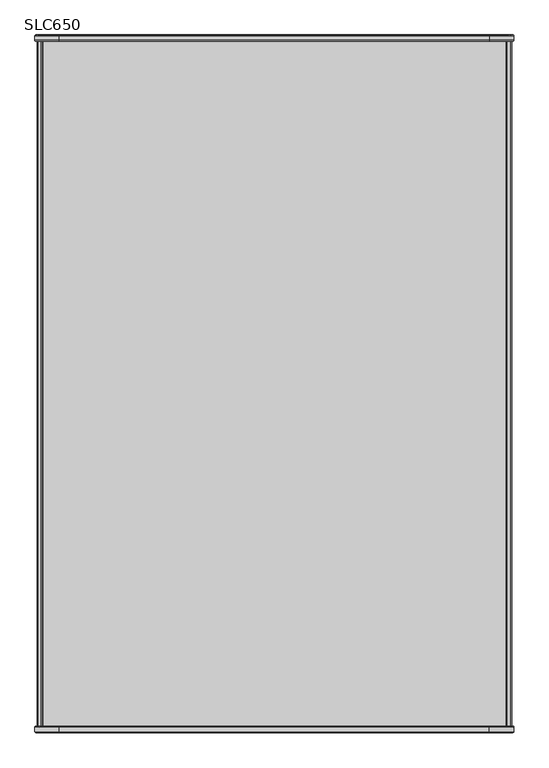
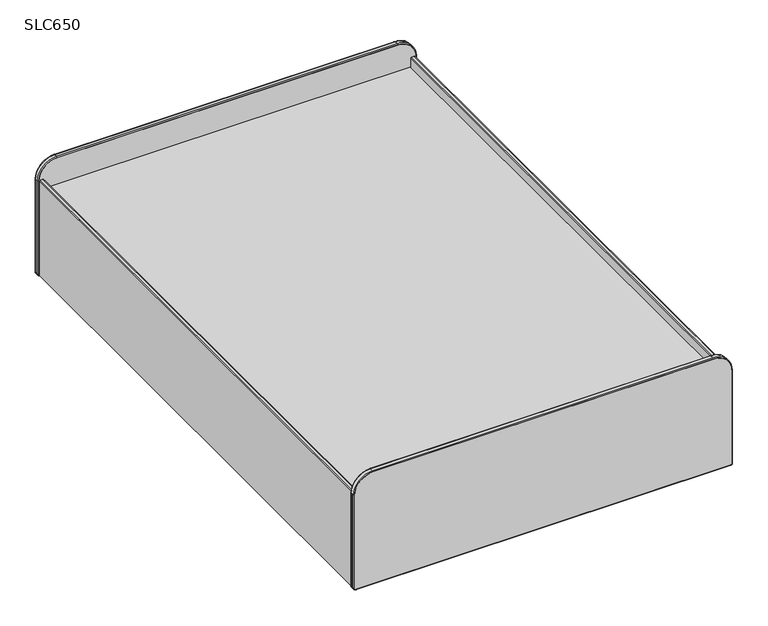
"""IFC4 building model written with IfcOpenShell, lengths in millimetres: furniture geometry, Stance_HC-Lotus-Platform_Bed-Rounded_Corners : SLC650."""

from ifc_helpers import new_model, si_unit, point, frame, frame_2d, origin, place, context, project, spatial, polyline, circle_curve, ellipse_curve, trimmed, segment, composite_curve, outline, extrude, source, transform, mapped, element, save
from ifc_brep_helpers import plane_surface, cylinder_surface, revolved_surface, advanced_brep


def slc650_620ad227(model_context):
    return source(origin(), model_context, "Body", "SolidModel", [
        extrude(outline(polyline([(1404.1437258, -2063.75), (24.6062492, -2063.75), (24.6062492, -19.05), (1404.1437258, -19.05), (1404.1437258, -2063.75)])), frame((0.0, 0.0, 323.85), z_axis=(0.0, 0.0, 1.0), x_axis=(1.0, 0.0, 0.0)), (0.0, 0.0, 1.0), 19.05),
        extrude(outline(composite_curve([segment(polyline([(0.0, 22.2249992), (377.825, 22.2249992)]), True, "CONTINUOUS"), segment(trimmed(circle_curve(frame_2d((377.825, 19.0499992)), 3.175), [point((377.825, 22.2249992))], [point((381.0, 19.0499992))], False, "CARTESIAN"), True, "CONTINUOUS"), segment(polyline([(381.0, 19.0499992), (381.0, 9.5250002)]), True, "CONTINUOUS"), segment(trimmed(circle_curve(frame_2d((377.825, 9.5250002)), 3.175), [point((381.0, 9.5250002))], [point((377.825, 6.3500002))], False, "CARTESIAN"), True, "CONTINUOUS"), segment(polyline([(377.825, 6.3500002), (0.0, 6.3500002), (0.0, 22.2249992)]), True, "CONTINUOUS")], self_intersect=False)), frame((0.0, -2063.75, 0.0), z_axis=(0.0, 1.0, 0.0), x_axis=(0.0, 0.0, 1.0)), (0.0, 0.0, 1.0), 2044.7),
        extrude(outline(composite_curve([segment(polyline([(0.0, 1406.5250008), (0.0, 1422.3999998), (377.825, 1422.3999998)]), True, "CONTINUOUS"), segment(trimmed(circle_curve(frame_2d((377.825, 1419.2249998)), 3.175), [point((377.825, 1422.3999998))], [point((381.0, 1419.2249998))], False, "CARTESIAN"), True, "CONTINUOUS"), segment(polyline([(381.0, 1419.2249998), (381.0, 1409.7000008)]), True, "CONTINUOUS"), segment(trimmed(circle_curve(frame_2d((377.825, 1409.7000008)), 3.175), [point((381.0, 1409.7000008))], [point((377.825, 1406.5250008))], False, "CARTESIAN"), True, "CONTINUOUS"), segment(polyline([(377.825, 1406.5250008), (0.0, 1406.5250008)]), True, "CONTINUOUS")], self_intersect=False)), frame((0.0, -2063.75, 0.0), z_axis=(0.0, 1.0, 0.0), x_axis=(0.0, 0.0, 1.0)), (0.0, 0.0, 1.0), 2044.7),
        extrude(outline(composite_curve([segment(trimmed(circle_curve(frame_2d((6.35, 1422.4)), 3.1749999), [point((3.1750001, 1422.4))], [point((6.35, 1425.5749999))], False, "CARTESIAN"), True, "CONTINUOUS"), segment(polyline([(6.35, 1425.5749999), (377.8249879, 1425.5749999)]), True, "CONTINUOUS"), segment(trimmed(circle_curve(frame_2d((377.8249879, 1355.725)), 69.8499999), [point((377.8249879, 1425.5749999))], [point((447.6749878, 1355.725))], False, "CARTESIAN"), True, "CONTINUOUS"), segment(polyline([(447.6749878, 1355.725), (447.6749878, 73.0249985)]), True, "CONTINUOUS"), segment(trimmed(circle_curve(frame_2d((377.8249894, 73.0249985)), 69.8499984), [point((447.6749878, 73.0249985))], [point((377.8249894, 3.1750001))], False, "CARTESIAN"), True, "CONTINUOUS"), segment(polyline([(377.8249894, 3.1750001), (6.35, 3.1750001)]), True, "CONTINUOUS"), segment(trimmed(circle_curve(frame_2d((6.35, 6.35)), 3.1749999), [point((6.35, 3.1750001))], [point((3.1750001, 6.35))], False, "CARTESIAN"), True, "CONTINUOUS"), segment(polyline([(3.1750001, 6.35), (3.1750001, 1422.4)]), True, "CONTINUOUS")], self_intersect=False)), frame((0.0, -2082.8, 0.0), z_axis=(0.0, 1.0, 0.0), x_axis=(0.0, 0.0, 1.0)), (0.0, 0.0, 1.0), 19.05),
        extrude(outline(composite_curve([segment(polyline([(3.1750001, 6.35), (3.1750001, 1422.4)]), True, "CONTINUOUS"), segment(trimmed(circle_curve(frame_2d((6.35, 1422.4)), 3.1749999), [point((3.1750001, 1422.4))], [point((6.35, 1425.5749999))], False, "CARTESIAN"), True, "CONTINUOUS"), segment(polyline([(6.35, 1425.5749999), (377.8249879, 1425.5749999)]), True, "CONTINUOUS"), segment(trimmed(circle_curve(frame_2d((377.8249879, 1355.725)), 69.8499999), [point((377.8249879, 1425.5749999))], [point((447.6749878, 1355.725))], False, "CARTESIAN"), True, "CONTINUOUS"), segment(polyline([(447.6749878, 1355.725), (447.6749878, 73.025)]), True, "CONTINUOUS"), segment(trimmed(circle_curve(frame_2d((377.8249879, 73.025)), 69.8499999), [point((447.6749878, 73.025))], [point((377.8249879, 3.1750001))], False, "CARTESIAN"), True, "CONTINUOUS"), segment(polyline([(377.8249879, 3.1750001), (6.35, 3.1750001)]), True, "CONTINUOUS"), segment(trimmed(circle_curve(frame_2d((6.35, 6.35)), 3.1749999), [point((6.35, 3.1750001))], [point((3.1750001, 6.35))], False, "CARTESIAN"), True, "CONTINUOUS")], self_intersect=False)), frame((0.0, -19.05, 0.0), z_axis=(0.0, 1.0, 0.0), x_axis=(0.0, 0.0, 1.0)), (0.0, 0.0, 1.0), 19.05),
        advanced_brep(
        [(1428.75, -2066.9250001, 6.35), (1422.4, -2066.9250001, 0.0), (1422.4, -2063.75, 3.1750001), (1425.5749999, -2063.75, 6.35), (1422.4, -2082.8, 3.1750001), (1425.5749999, -2082.8, 6.35), (1422.4, -2079.6249999, 0.0), (1428.75, -2079.6249999, 6.35), (1425.5749999, -2063.75, 377.8249879), (1428.75, -2066.9250001, 377.8249879), (1425.5749999, -2082.8, 377.8249879), (1428.75, -2079.6249999, 377.8249879), (0.0, -2066.9250001, 377.8249894), (3.1750001, -2063.75, 377.8249894), (3.1750001, -2063.75, 6.35), (0.0, -2066.9250001, 6.35), (3.1750001, -2082.8, 377.8249894), (3.1750001, -2082.8, 6.35), (0.0, -2079.6249999, 377.8249894), (0.0, -2079.6249999, 6.35), (6.35, -2066.9250001, 0.0), (6.35, -2063.75, 3.1750001), (6.35, -2082.8, 3.1750001), (6.35, -2079.6249999, 0.0), (1355.725, -2079.6249999, 450.8499879), (1355.725, -2066.9250001, 450.8499879), (1355.725, -2082.8, 447.6749878), (1355.725, -2063.75, 447.6749878), (73.0249985, -2066.9250001, 450.8499879), (73.0249985, -2079.6249999, 450.8499879), (73.0249985, -2082.8, 447.6749878), (73.0249985, -2063.75, 447.6749878)],
        [
            (0, 1, circle_curve(frame((1422.4, -2066.9250001, 6.35), z_axis=(0.0, 1.0, 0.0), x_axis=(0.0, 0.0, -1.0)), 6.35)),
            (1, 2, circle_curve(frame((1422.4, -2066.9250001, 3.1750001), z_axis=(1.0, 0.0, 0.0), x_axis=(0.0, 0.0, -1.0)), 3.1750001)),
            (2, 3, circle_curve(frame((1422.4, -2063.75, 6.35), z_axis=(0.0, -1.0, 0.0), x_axis=(0.0, 0.0, -1.0)), 3.1749999)),
            (3, 0, circle_curve(frame((1425.5749999, -2066.9250001, 6.35), z_axis=(0.0, 0.0, -1.0), x_axis=(1.0, 0.0, 0.0)), 3.1750001)),
            (2, 4),
            (4, 5, circle_curve(frame((1422.4, -2082.8, 6.35), z_axis=(0.0, -1.0, 0.0), x_axis=(0.0, 0.0, -1.0)), 3.1749999)),
            (5, 3),
            (4, 6, circle_curve(frame((1422.4, -2079.6249999, 3.1750001), z_axis=(1.0, 0.0, 0.0), x_axis=(0.0, 0.0, -1.0)), 3.1750001)),
            (6, 7, circle_curve(frame((1422.4, -2079.6249999, 6.35), z_axis=(0.0, -1.0, 0.0), x_axis=(0.0, 0.0, -1.0)), 6.35)),
            (7, 5, circle_curve(frame((1425.5749999, -2079.6249999, 6.35), z_axis=(0.0, 0.0, -1.0), x_axis=(1.0, 0.0, 0.0)), 3.1750001)),
            (6, 1),
            (0, 7),
            (3, 8),
            (8, 9, circle_curve(frame((1425.5749999, -2066.9250001, 377.8249879), z_axis=(0.0, 0.0, -1.0), x_axis=(1.0, 0.0, 0.0)), 3.1750001)),
            (9, 0),
            (5, 10),
            (10, 8),
            (7, 11),
            (11, 10, circle_curve(frame((1425.5749999, -2079.6249999, 377.8249879), z_axis=(0.0, 0.0, -1.0), x_axis=(1.0, 0.0, 0.0)), 3.1750001)),
            (9, 11),
            (12, 13, circle_curve(frame((3.1750001, -2066.9250001, 377.8249894), z_axis=(0.0, 0.0, -1.0), x_axis=(-1.0, 0.0, 0.0)), 3.1750001)),
            (13, 14),
            (14, 15, circle_curve(frame((3.1750001, -2066.9250001, 6.35), z_axis=(0.0, 0.0, 1.0), x_axis=(-1.0, 0.0, 0.0)), 3.1750001)),
            (15, 12),
            (13, 16),
            (16, 17),
            (17, 14),
            (16, 18, circle_curve(frame((3.1750001, -2079.6249999, 377.8249894), z_axis=(0.0, 0.0, -1.0), x_axis=(-1.0, 0.0, 0.0)), 3.1750001)),
            (18, 19),
            (19, 17, circle_curve(frame((3.1750001, -2079.6249999, 6.35), z_axis=(0.0, 0.0, 1.0), x_axis=(-1.0, 0.0, 0.0)), 3.1750001)),
            (18, 12),
            (15, 19),
            (20, 15, circle_curve(frame((6.35, -2066.9250001, 6.35), z_axis=(0.0, 1.0, 0.0), x_axis=(-1.0, 0.0, 0.0)), 6.35)),
            (14, 21, circle_curve(frame((6.35, -2063.75, 6.35), z_axis=(0.0, -1.0, 0.0), x_axis=(-1.0, 0.0, 0.0)), 3.1749999)),
            (21, 20, circle_curve(frame((6.35, -2066.9250001, 3.1750001), z_axis=(-1.0, 0.0, -2.6133808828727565e-12), x_axis=(2.6133808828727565e-12, 0.0, -1.0)), 3.1750001)),
            (17, 22, circle_curve(frame((6.35, -2082.8, 6.35), z_axis=(0.0, -1.0, 0.0), x_axis=(-1.0, 0.0, 0.0)), 3.1749999)),
            (22, 21),
            (19, 23, circle_curve(frame((6.35, -2079.6249999, 6.35), z_axis=(0.0, -1.0, 0.0), x_axis=(-1.0, 0.0, 0.0)), 6.35)),
            (23, 22, circle_curve(frame((6.35, -2079.6249999, 3.1750001), z_axis=(-1.0, 0.0, -1.3004311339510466e-12), x_axis=(1.3004311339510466e-12, 0.0, -1.0)), 3.1750001)),
            (20, 23),
            (21, 2),
            (1, 20),
            (22, 4),
            (23, 6),
            (24, 11, circle_curve(frame((1355.725, -2079.6249999, 377.8249879), z_axis=(0.0, 1.0, 0.0), x_axis=(1.0, 0.0, 0.0)), 73.025)),
            (9, 25, circle_curve(frame((1355.725, -2066.9250001, 377.8249879), z_axis=(0.0, -1.0, 0.0), x_axis=(1.0, 0.0, 0.0)), 73.025)),
            (25, 24),
            (26, 10, circle_curve(frame((1355.725, -2082.8, 377.8249879), z_axis=(0.0, 1.0, 0.0), x_axis=(1.0, 0.0, 0.0)), 69.8499999)),
            (24, 26, circle_curve(frame((1355.725, -2079.6249999, 447.6749878), z_axis=(1.0, 0.0, 0.0), x_axis=(0.0, 0.0, 1.0)), 3.1750001)),
            (27, 8, circle_curve(frame((1355.725, -2063.75, 377.8249879), z_axis=(0.0, 1.0, 0.0), x_axis=(1.0, 0.0, 0.0)), 69.8499999)),
            (26, 27),
            (27, 25, circle_curve(frame((1355.725, -2066.9250001, 447.6749878), z_axis=(1.0, 0.0, 0.0), x_axis=(0.0, 0.0, 1.0)), 3.1750001)),
            (25, 28),
            (28, 29),
            (29, 24),
            (29, 30, circle_curve(frame((73.0249985, -2079.6249999, 447.6749878), z_axis=(1.0, 0.0, 0.0), x_axis=(0.0, 0.0, 1.0)), 3.1750001)),
            (30, 26),
            (30, 31),
            (31, 27),
            (31, 28, circle_curve(frame((73.0249985, -2066.9250001, 447.6749878), z_axis=(1.0, 0.0, 0.0), x_axis=(0.0, 0.0, 1.0)), 3.1750001)),
            (18, 29, circle_curve(frame((73.0249985, -2079.6249999, 377.8249894), z_axis=(0.0, 1.0, 0.0), x_axis=(0.0, 0.0, 1.0)), 73.0249985)),
            (28, 12, circle_curve(frame((73.0249985, -2066.9250001, 377.8249894), z_axis=(0.0, -1.0, 0.0), x_axis=(0.0, 0.0, 1.0)), 73.0249985)),
            (16, 30, circle_curve(frame((73.0249985, -2082.8, 377.8249894), z_axis=(0.0, 1.0, 0.0), x_axis=(0.0, 0.0, 1.0)), 69.8499984)),
            (13, 31, circle_curve(frame((73.0249985, -2063.75, 377.8249894), z_axis=(0.0, 1.0, 0.0), x_axis=(0.0, 0.0, 1.0)), 69.8499984)),
        ],
        [
            revolved_surface(trimmed(ellipse_curve(frame((1422.4, -2066.9250001, 3.1750001), z_axis=(-1.0, 0.0, 0.0), x_axis=(0.0, 0.0, -1.0)), 3.1750001, 3.1750001), [point((1422.4, -2063.75, 3.1750001))], [point((1422.4, -2066.9250001, 0.0))], True, "CARTESIAN"), (1422.4, -2082.8, 6.35), (0.0, -1.0, 0.0)),
            revolved_surface(polyline([(1422.4, -2082.8, 3.1750000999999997), (1422.4, -2063.75, 3.1750000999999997)]), (1422.4, -2082.8, 6.35), (0.0, -1.0, 0.0)),
            revolved_surface(trimmed(ellipse_curve(frame((1422.4, -2079.6249999, 3.1750001), z_axis=(-1.0, 0.0, 0.0), x_axis=(0.0, 0.0, -1.0)), 3.1750001, 3.1750001), [point((1422.4, -2079.6249999, 0.0))], [point((1422.4, -2082.8, 3.1750001))], True, "CARTESIAN"), (1422.4, -2082.8, 6.35), (0.0, -1.0, 0.0)),
            cylinder_surface(frame((1422.4, -2082.8, 6.35), z_axis=(0.0, -1.0, 0.0), x_axis=(0.0, 0.0, -1.0)), 6.35),
            cylinder_surface(frame((1425.5749999, -2066.9250001, 6.35), z_axis=(0.0, 0.0, -1.0), x_axis=(1.0, 0.0, 0.0)), 3.1750001),
            plane_surface(frame((1425.5749999, -2082.8, 6.35), z_axis=(-1.0, 0.0, 0.0), x_axis=(0.0, 0.0, 1.0))),
            cylinder_surface(frame((1425.5749999, -2079.6249999, 6.35), z_axis=(0.0, 0.0, -1.0), x_axis=(1.0, 0.0, 0.0)), 3.1750001),
            plane_surface(frame((1428.75, -2066.9250001, 6.35), z_axis=(1.0, 0.0, 0.0), x_axis=(0.0, 0.0, 1.0))),
            cylinder_surface(frame((3.1750001, -2066.9250001, 377.8249894), z_axis=(0.0, 0.0, 1.0), x_axis=(-1.0, 0.0, 0.0)), 3.1750001),
            plane_surface(frame((3.1750001, -2082.8, 377.8249894), z_axis=(1.0, 0.0, 0.0), x_axis=(0.0, 0.0, -1.0))),
            cylinder_surface(frame((3.1750001, -2079.6249999, 377.8249894), z_axis=(0.0, 0.0, 1.0), x_axis=(-1.0, 0.0, 0.0)), 3.1750001),
            plane_surface(frame((0.0, -2066.9250001, 377.8249894), z_axis=(-1.0, 0.0, 0.0), x_axis=(0.0, 0.0, -1.0))),
            revolved_surface(trimmed(ellipse_curve(frame((3.1750001, -2066.9250001, 6.35), z_axis=(0.0, 0.0, 1.0), x_axis=(-1.0, 0.0, 0.0)), 3.1750001, 3.1750001), [point((3.1750001, -2063.75, 6.35))], [point((0.0, -2066.9250001, 6.35))], True, "CARTESIAN"), (6.35, -2082.8, 6.35), (0.0, -1.0, 0.0)),
            revolved_surface(polyline([(3.1750000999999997, -2082.8, 6.35), (3.1750000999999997, -2063.75, 6.35)]), (6.35, -2082.8, 6.35), (0.0, -1.0, 0.0)),
            revolved_surface(trimmed(ellipse_curve(frame((3.1750001, -2079.6249999, 6.35), z_axis=(0.0, 0.0, 1.0), x_axis=(-1.0, 0.0, 0.0)), 3.1750001, 3.1750001), [point((0.0, -2079.6249999, 6.35))], [point((3.1750001, -2082.8, 6.35))], True, "CARTESIAN"), (6.35, -2082.8, 6.35), (0.0, -1.0, 0.0)),
            cylinder_surface(frame((6.35, -2082.8, 6.35), z_axis=(0.0, -1.0, 0.0), x_axis=(-1.0, 0.0, 0.0)), 6.35),
            cylinder_surface(frame((6.35, -2066.9250001, 3.1750001), z_axis=(-1.0, 0.0, 0.0), x_axis=(0.0, 0.0, -1.0)), 3.1750001),
            plane_surface(frame((6.35, -2082.8, 3.1750001), z_axis=(0.0, 0.0, 1.0), x_axis=(1.0, 0.0, 0.0))),
            cylinder_surface(frame((6.35, -2079.6249999, 3.1750001), z_axis=(-1.0, 0.0, 0.0), x_axis=(0.0, 0.0, -1.0)), 3.1750001),
            plane_surface(frame((6.35, -2066.9250001, 0.0), z_axis=(0.0, 0.0, -1.0), x_axis=(1.0, 0.0, 0.0))),
            cylinder_surface(frame((1355.725, -2082.8, 377.8249879), z_axis=(0.0, -1.0, 0.0), x_axis=(1.0, 0.0, 0.0)), 73.025),
            revolved_surface(trimmed(ellipse_curve(frame((1425.5749999, -2079.6249999, 377.8249879), z_axis=(0.0, 0.0, -1.0), x_axis=(1.0, 0.0, 0.0)), 3.1750001, 3.1750001), [point((1428.75, -2079.6249999, 377.8249879))], [point((1425.5749999, -2082.8, 377.8249879))], True, "CARTESIAN"), (1355.725, -2082.8, 377.8249879), (0.0, -1.0, 0.0)),
            revolved_surface(polyline([(1425.5749999, -2082.8, 377.8249879), (1425.5749999, -2063.75, 377.8249879)]), (1355.725, -2082.8, 377.8249879), (0.0, -1.0, 0.0)),
            revolved_surface(trimmed(ellipse_curve(frame((1425.5749999, -2066.9250001, 377.8249879), z_axis=(0.0, 0.0, -1.0), x_axis=(1.0, 0.0, 0.0)), 3.1750001, 3.1750001), [point((1425.5749999, -2063.75, 377.8249879))], [point((1428.75, -2066.9250001, 377.8249879))], True, "CARTESIAN"), (1355.725, -2082.8, 377.8249879), (0.0, -1.0, 0.0)),
            plane_surface(frame((1355.725, -2066.9250001, 450.8499879), z_axis=(0.0, 0.0, 1.0), x_axis=(-1.0, 0.0, 0.0))),
            cylinder_surface(frame((1355.725, -2079.6249999, 447.6749878), z_axis=(1.0, 0.0, 0.0), x_axis=(0.0, 0.0, 1.0)), 3.1750001),
            plane_surface(frame((1355.725, -2082.8, 447.6749878), z_axis=(0.0, 0.0, -1.0), x_axis=(-1.0, 0.0, 0.0))),
            cylinder_surface(frame((1355.725, -2066.9250001, 447.6749878), z_axis=(1.0, 0.0, 0.0), x_axis=(0.0, 0.0, 1.0)), 3.1750001),
            cylinder_surface(frame((73.0249985, -2082.8, 377.8249894), z_axis=(0.0, -1.0, 0.0), x_axis=(0.0, 0.0, 1.0)), 73.0249985),
            revolved_surface(trimmed(ellipse_curve(frame((73.0249985, -2079.6249999, 447.6749878), z_axis=(1.0, 0.0, 0.0), x_axis=(0.0, 0.0, 1.0)), 3.1750001, 3.1750001), [point((73.0249985, -2079.6249999, 450.8499879))], [point((73.0249985, -2082.8, 447.6749878))], True, "CARTESIAN"), (73.0249985, -2082.8, 377.8249894), (0.0, -1.0, 0.0)),
            revolved_surface(polyline([(73.0249985, -2082.8, 447.6749878), (73.0249985, -2063.75, 447.6749878)]), (73.0249985, -2082.8, 377.8249894), (0.0, -1.0, 0.0)),
            revolved_surface(trimmed(ellipse_curve(frame((73.0249985, -2066.9250001, 447.6749878), z_axis=(1.0, 0.0, 0.0), x_axis=(0.0, 0.0, 1.0)), 3.1750001, 3.1750001), [point((73.0249985, -2063.75, 447.6749878))], [point((73.0249985, -2066.9250001, 450.8499879))], True, "CARTESIAN"), (73.0249985, -2082.8, 377.8249894), (0.0, -1.0, 0.0)),
        ],
        [
            (0, [[1, 2, 3, 4]]),
            (1, [[-3, 5, 6, 7]]),
            (2, [[-6, 8, 9, 10]]),
            (3, [[-9, 11, -1, 12]]),
            (4, [[-4, 13, 14, 15]]),
            (5, [[-7, 16, 17, -13]]),
            (6, [[-10, 18, 19, -16]]),
            (7, [[-12, -15, 20, -18]]),
            (8, [[21, 22, 23, 24]]),
            (9, [[25, 26, 27, -22]]),
            (10, [[28, 29, 30, -26]]),
            (11, [[31, -24, 32, -29]]),
            (12, [[33, -23, 34, 35]]),
            (13, [[-34, -27, 36, 37]]),
            (14, [[-36, -30, 38, 39]]),
            (15, [[-38, -32, -33, 40]]),
            (16, [[-35, 41, -2, 42]]),
            (17, [[-37, 43, -5, -41]]),
            (18, [[-39, 44, -8, -43]]),
            (19, [[-40, -42, -11, -44]]),
            (20, [[45, -20, 46, 47]]),
            (21, [[48, -19, -45, 49]]),
            (22, [[50, -17, -48, 51]]),
            (23, [[-46, -14, -50, 52]]),
            (24, [[-47, 53, 54, 55]]),
            (25, [[-49, -55, 56, 57]]),
            (26, [[-51, -57, 58, 59]]),
            (27, [[-52, -59, 60, -53]]),
            (28, [[61, -54, 62, -31]]),
            (29, [[63, -56, -61, -28]]),
            (30, [[64, -58, -63, -25]]),
            (31, [[-62, -60, -64, -21]]),
        ],
    ),
        advanced_brep(
        [(1425.5749999, -19.05, 6.35), (1422.4, -19.05, 3.1750001), (1422.4, -15.8749999, 0.0), (1428.75, -15.8749999, 6.35), (1425.5749999, 0.0, 6.35), (1422.4, 0.0, 3.1750001), (1428.75, -3.1750001, 6.35), (1422.4, -3.1750001, 0.0), (1428.75, -15.8749999, 377.8249879), (1425.5749999, -19.05, 377.8249879), (1425.5749999, 0.0, 377.8249879), (1428.75, -3.1750001, 377.8249879), (1355.725, -19.05, 447.6749878), (1355.725, -15.8749999, 450.8499879), (73.025, -15.8749999, 450.8499879), (73.025, -19.05, 447.6749878), (1355.725, 0.0, 447.6749878), (73.025, 0.0, 447.6749878), (1355.725, -3.1750001, 450.8499879), (73.025, -3.1750001, 450.8499879), (3.1750001, -19.05, 377.8249879), (0.0, -15.8749999, 377.8249879), (0.0, -15.8749999, 6.35), (3.1750001, -19.05, 6.35), (3.1750001, 0.0, 377.8249879), (3.1750001, 0.0, 6.35), (0.0, -3.1750001, 377.8249879), (0.0, -3.1750001, 6.35), (6.35, -19.05, 3.1750001), (6.35, -15.8749999, 0.0), (6.35, 0.0, 3.1750001), (6.35, -3.1750001, 0.0)],
        [
            (0, 1, circle_curve(frame((1422.4, -19.05, 6.35), z_axis=(0.0, 1.0, 0.0), x_axis=(0.0, 0.0, -1.0)), 3.1749999)),
            (1, 2, circle_curve(frame((1422.4, -15.8749999, 3.1750001), z_axis=(1.0, 0.0, 0.0), x_axis=(0.0, 0.0, 1.0)), 3.1750001)),
            (2, 3, circle_curve(frame((1422.4, -15.8749999, 6.35), z_axis=(0.0, -1.0, 0.0), x_axis=(0.0, 0.0, -1.0)), 6.35)),
            (3, 0, circle_curve(frame((1425.5749999, -15.8749999, 6.35), z_axis=(0.0, 0.0, -1.0), x_axis=(-1.0, 0.0, 0.0)), 3.1750001)),
            (4, 5, circle_curve(frame((1422.4, 0.0, 6.35), z_axis=(0.0, 1.0, 0.0), x_axis=(0.0, 0.0, -1.0)), 3.1749999)),
            (5, 1),
            (0, 4),
            (6, 7, circle_curve(frame((1422.4, -3.1750001, 6.35), z_axis=(0.0, 1.0, 0.0), x_axis=(0.0, 0.0, -1.0)), 6.35)),
            (7, 5, circle_curve(frame((1422.4, -3.1750001, 3.1750001), z_axis=(1.0, 0.0, 0.0), x_axis=(0.0, 0.0, 1.0)), 3.1750001)),
            (4, 6, circle_curve(frame((1425.5749999, -3.1750001, 6.35), z_axis=(0.0, 0.0, -1.0), x_axis=(-1.0, 0.0, 0.0)), 3.1750001)),
            (2, 7),
            (6, 3),
            (3, 8),
            (8, 9, circle_curve(frame((1425.5749999, -15.8749999, 377.8249879), z_axis=(0.0, 0.0, -1.0), x_axis=(-1.0, 0.0, 0.0)), 3.1750001)),
            (9, 0),
            (9, 10),
            (10, 4),
            (10, 11, circle_curve(frame((1425.5749999, -3.1750001, 377.8249879), z_axis=(0.0, 0.0, -1.0), x_axis=(-1.0, 0.0, 0.0)), 3.1750001)),
            (11, 6),
            (11, 8),
            (12, 13, circle_curve(frame((1355.725, -15.8749999, 447.6749878), z_axis=(-1.0, 0.0, 0.0), x_axis=(0.0, 0.0, -1.0)), 3.1750001)),
            (13, 14),
            (14, 15, circle_curve(frame((73.025, -15.8749999, 447.6749878), z_axis=(1.0, 0.0, 0.0), x_axis=(0.0, 0.0, -1.0)), 3.1750001)),
            (15, 12),
            (16, 12),
            (15, 17),
            (17, 16),
            (18, 16, circle_curve(frame((1355.725, -3.1750001, 447.6749878), z_axis=(-1.0, 0.0, 0.0), x_axis=(0.0, 0.0, -1.0)), 3.1750001)),
            (17, 19, circle_curve(frame((73.025, -3.1750001, 447.6749878), z_axis=(1.0, 0.0, 0.0), x_axis=(0.0, 0.0, -1.0)), 3.1750001)),
            (19, 18),
            (13, 18),
            (19, 14),
            (20, 21, circle_curve(frame((3.1750001, -15.8749999, 377.8249879), z_axis=(0.0, 0.0, -1.0), x_axis=(1.0, 0.0, 0.0)), 3.1750001)),
            (21, 22),
            (22, 23, circle_curve(frame((3.1750001, -15.8749999, 6.35), z_axis=(0.0, 0.0, 1.0), x_axis=(1.0, 0.0, 0.0)), 3.1750001)),
            (23, 20),
            (24, 20),
            (23, 25),
            (25, 24),
            (26, 24, circle_curve(frame((3.1750001, -3.1750001, 377.8249879), z_axis=(0.0, 0.0, -1.0), x_axis=(1.0, 0.0, 0.0)), 3.1750001)),
            (25, 27, circle_curve(frame((3.1750001, -3.1750001, 6.35), z_axis=(0.0, 0.0, 1.0), x_axis=(1.0, 0.0, 0.0)), 3.1750001)),
            (27, 26),
            (21, 26),
            (27, 22),
            (28, 23, circle_curve(frame((6.35, -19.05, 6.35), z_axis=(0.0, 1.0, 0.0), x_axis=(-1.0, 0.0, 0.0)), 3.1749999)),
            (22, 29, circle_curve(frame((6.35, -15.8749999, 6.35), z_axis=(0.0, -1.0, 0.0), x_axis=(-1.0, 0.0, 0.0)), 6.35)),
            (29, 28, circle_curve(frame((6.35, -15.8749999, 3.1750001), z_axis=(-1.0, 0.0, 0.0), x_axis=(0.0, 0.0, 1.0)), 3.1750001)),
            (30, 25, circle_curve(frame((6.35, 0.0, 6.35), z_axis=(0.0, 1.0, 0.0), x_axis=(-1.0, 0.0, 0.0)), 3.1749999)),
            (28, 30),
            (31, 27, circle_curve(frame((6.35, -3.1750001, 6.35), z_axis=(0.0, 1.0, 0.0), x_axis=(-1.0, 0.0, 0.0)), 6.35)),
            (30, 31, circle_curve(frame((6.35, -3.1750001, 3.1750001), z_axis=(-1.0, 0.0, 0.0), x_axis=(0.0, 0.0, 1.0)), 3.1750001)),
            (31, 29),
            (29, 2),
            (1, 28),
            (5, 30),
            (7, 31),
            (12, 9, circle_curve(frame((1355.725, -19.05, 377.8249879), z_axis=(0.0, 1.0, 0.0), x_axis=(1.0, 0.0, 0.0)), 69.8499999)),
            (8, 13, circle_curve(frame((1355.725, -15.8749999, 377.8249879), z_axis=(0.0, -1.0, 0.0), x_axis=(1.0, 0.0, 0.0)), 73.025)),
            (16, 10, circle_curve(frame((1355.725, 0.0, 377.8249879), z_axis=(0.0, 1.0, 0.0), x_axis=(1.0, 0.0, 0.0)), 69.8499999)),
            (18, 11, circle_curve(frame((1355.725, -3.1750001, 377.8249879), z_axis=(0.0, 1.0, 0.0), x_axis=(1.0, 0.0, 0.0)), 73.025)),
            (20, 15, circle_curve(frame((73.025, -19.05, 377.8249879), z_axis=(0.0, 1.0, 0.0), x_axis=(0.0, 0.0, 1.0)), 69.8499999)),
            (14, 21, circle_curve(frame((73.025, -15.8749999, 377.8249879), z_axis=(0.0, -1.0, 0.0), x_axis=(0.0, 0.0, 1.0)), 73.025)),
            (24, 17, circle_curve(frame((73.025, 0.0, 377.8249879), z_axis=(0.0, 1.0, 0.0), x_axis=(0.0, 0.0, 1.0)), 69.8499999)),
            (26, 19, circle_curve(frame((73.025, -3.1750001, 377.8249879), z_axis=(0.0, 1.0, 0.0), x_axis=(0.0, 0.0, 1.0)), 73.025)),
        ],
        [
            revolved_surface(trimmed(ellipse_curve(frame((1422.4, -15.8749999, 3.1750001), z_axis=(-1.0, 0.0, 0.0), x_axis=(0.0, 0.0, 1.0)), 3.1750001, 3.1750001), [point((1422.4, -15.8749999, 0.0))], [point((1422.4, -19.05, 3.1750001))], True, "CARTESIAN"), (1422.4, 0.0, 6.35), (0.0, -1.0, 0.0)),
            revolved_surface(polyline([(1422.4, -19.05, 3.1750000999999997), (1422.4, 0.0, 3.1750000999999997)]), (1422.4, 0.0, 6.35), (0.0, -1.0, 0.0)),
            revolved_surface(trimmed(ellipse_curve(frame((1422.4, -3.1750001, 3.1750001), z_axis=(-1.0, 0.0, 0.0), x_axis=(0.0, 0.0, 1.0)), 3.1750001, 3.1750001), [point((1422.4, 0.0, 3.1750001))], [point((1422.4, -3.1750001, 0.0))], True, "CARTESIAN"), (1422.4, 0.0, 6.35), (0.0, -1.0, 0.0)),
            cylinder_surface(frame((1422.4, 0.0, 6.35), z_axis=(0.0, -1.0, 0.0), x_axis=(0.0, 0.0, -1.0)), 6.35),
            cylinder_surface(frame((1425.5749999, -15.8749999, 6.35), z_axis=(0.0, 0.0, -1.0), x_axis=(-1.0, 0.0, 0.0)), 3.1750001),
            plane_surface(frame((1425.5749999, -19.05, 6.35), z_axis=(-1.0, 0.0, 0.0), x_axis=(0.0, 0.0, 1.0))),
            cylinder_surface(frame((1425.5749999, -3.1750001, 6.35), z_axis=(0.0, 0.0, -1.0), x_axis=(-1.0, 0.0, 0.0)), 3.1750001),
            plane_surface(frame((1428.75, -3.1750001, 6.35), z_axis=(1.0, 0.0, 0.0), x_axis=(0.0, 0.0, 1.0))),
            cylinder_surface(frame((1355.725, -15.8749999, 447.6749878), z_axis=(1.0, 0.0, 0.0), x_axis=(0.0, 0.0, -1.0)), 3.1750001),
            plane_surface(frame((1355.725, -19.05, 447.6749878), z_axis=(0.0, 0.0, -1.0), x_axis=(-1.0, 0.0, 0.0))),
            cylinder_surface(frame((1355.725, -3.1750001, 447.6749878), z_axis=(1.0, 0.0, 0.0), x_axis=(0.0, 0.0, -1.0)), 3.1750001),
            plane_surface(frame((1355.725, -3.1750001, 450.8499879), z_axis=(0.0, 0.0, 1.0), x_axis=(-1.0, 0.0, 0.0))),
            cylinder_surface(frame((3.1750001, -15.8749999, 377.8249879), z_axis=(0.0, 0.0, 1.0), x_axis=(1.0, 0.0, 0.0)), 3.1750001),
            plane_surface(frame((3.1750001, -19.05, 377.8249879), z_axis=(1.0, 0.0, 0.0), x_axis=(0.0, 0.0, -1.0))),
            cylinder_surface(frame((3.1750001, -3.1750001, 377.8249879), z_axis=(0.0, 0.0, 1.0), x_axis=(1.0, 0.0, 0.0)), 3.1750001),
            plane_surface(frame((0.0, -3.1750001, 377.8249879), z_axis=(-1.0, 0.0, 0.0), x_axis=(0.0, 0.0, -1.0))),
            revolved_surface(trimmed(ellipse_curve(frame((3.1750001, -15.8749999, 6.35), z_axis=(0.0, 0.0, 1.0), x_axis=(1.0, 0.0, 0.0)), 3.1750001, 3.1750001), [point((0.0, -15.8749999, 6.35))], [point((3.1750001, -19.05, 6.35))], True, "CARTESIAN"), (6.35, 0.0, 6.35), (0.0, -1.0, 0.0)),
            revolved_surface(polyline([(3.1750000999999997, -19.05, 6.35), (3.1750000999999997, 0.0, 6.35)]), (6.35, 0.0, 6.35), (0.0, -1.0, 0.0)),
            revolved_surface(trimmed(ellipse_curve(frame((3.1750001, -3.1750001, 6.35), z_axis=(0.0, 0.0, 1.0), x_axis=(1.0, 0.0, 0.0)), 3.1750001, 3.1750001), [point((3.1750001, 0.0, 6.35))], [point((0.0, -3.1750001, 6.35))], True, "CARTESIAN"), (6.35, 0.0, 6.35), (0.0, -1.0, 0.0)),
            cylinder_surface(frame((6.35, 0.0, 6.35), z_axis=(0.0, -1.0, 0.0), x_axis=(-1.0, 0.0, 0.0)), 6.35),
            cylinder_surface(frame((6.35, -15.8749999, 3.1750001), z_axis=(-1.0, 0.0, 0.0), x_axis=(0.0, 0.0, 1.0)), 3.1750001),
            plane_surface(frame((6.35, -19.05, 3.1750001), z_axis=(0.0, 0.0, 1.0), x_axis=(1.0, 0.0, 0.0))),
            cylinder_surface(frame((6.35, -3.1750001, 3.1750001), z_axis=(-1.0, 0.0, 0.0), x_axis=(0.0, 0.0, 1.0)), 3.1750001),
            plane_surface(frame((6.35, -3.1750001, 0.0), z_axis=(0.0, 0.0, -1.0), x_axis=(1.0, 0.0, 0.0))),
            revolved_surface(trimmed(ellipse_curve(frame((1425.5749999, -15.8749999, 377.8249879), z_axis=(0.0, 0.0, -1.0), x_axis=(-1.0, 0.0, 0.0)), 3.1750001, 3.1750001), [point((1428.75, -15.8749999, 377.8249879))], [point((1425.5749999, -19.05, 377.8249879))], True, "CARTESIAN"), (1355.725, 0.0, 377.8249879), (0.0, -1.0, 0.0)),
            revolved_surface(polyline([(1425.5749999, -19.05, 377.8249879), (1425.5749999, 0.0, 377.8249879)]), (1355.725, 0.0, 377.8249879), (0.0, -1.0, 0.0)),
            revolved_surface(trimmed(ellipse_curve(frame((1425.5749999, -3.1750001, 377.8249879), z_axis=(0.0, 0.0, -1.0), x_axis=(-1.0, 0.0, 0.0)), 3.1750001, 3.1750001), [point((1425.5749999, 0.0, 377.8249879))], [point((1428.75, -3.1750001, 377.8249879))], True, "CARTESIAN"), (1355.725, 0.0, 377.8249879), (0.0, -1.0, 0.0)),
            cylinder_surface(frame((1355.725, 0.0, 377.8249879), z_axis=(0.0, -1.0, 0.0), x_axis=(1.0, 0.0, 0.0)), 73.025),
            revolved_surface(trimmed(ellipse_curve(frame((73.025, -15.8749999, 447.6749878), z_axis=(1.0, 0.0, 0.0), x_axis=(0.0, 0.0, -1.0)), 3.1750001, 3.1750001), [point((73.025, -15.8749999, 450.8499879))], [point((73.025, -19.05, 447.6749878))], True, "CARTESIAN"), (73.025, 0.0, 377.8249879), (0.0, -1.0, 0.0)),
            revolved_surface(polyline([(73.025, -19.05, 447.6749878), (73.025, 0.0, 447.6749878)]), (73.025, 0.0, 377.8249879), (0.0, -1.0, 0.0)),
            revolved_surface(trimmed(ellipse_curve(frame((73.025, -3.1750001, 447.6749878), z_axis=(1.0, 0.0, 0.0), x_axis=(0.0, 0.0, -1.0)), 3.1750001, 3.1750001), [point((73.025, 0.0, 447.6749878))], [point((73.025, -3.1750001, 450.8499879))], True, "CARTESIAN"), (73.025, 0.0, 377.8249879), (0.0, -1.0, 0.0)),
            cylinder_surface(frame((73.025, 0.0, 377.8249879), z_axis=(0.0, -1.0, 0.0), x_axis=(0.0, 0.0, 1.0)), 73.025),
        ],
        [
            (0, [[1, 2, 3, 4]]),
            (1, [[5, 6, -1, 7]]),
            (2, [[8, 9, -5, 10]]),
            (3, [[-3, 11, -8, 12]]),
            (4, [[-4, 13, 14, 15]]),
            (5, [[-7, -15, 16, 17]]),
            (6, [[-10, -17, 18, 19]]),
            (7, [[-12, -19, 20, -13]]),
            (8, [[21, 22, 23, 24]]),
            (9, [[25, -24, 26, 27]]),
            (10, [[28, -27, 29, 30]]),
            (11, [[31, -30, 32, -22]]),
            (12, [[33, 34, 35, 36]]),
            (13, [[37, -36, 38, 39]]),
            (14, [[40, -39, 41, 42]]),
            (15, [[43, -42, 44, -34]]),
            (16, [[45, -35, 46, 47]]),
            (17, [[48, -38, -45, 49]]),
            (18, [[50, -41, -48, 51]]),
            (19, [[-46, -44, -50, 52]]),
            (20, [[-47, 53, -2, 54]]),
            (21, [[-49, -54, -6, 55]]),
            (22, [[-51, -55, -9, 56]]),
            (23, [[-52, -56, -11, -53]]),
            (24, [[57, -14, 58, -21]]),
            (25, [[59, -16, -57, -25]]),
            (26, [[60, -18, -59, -28]]),
            (27, [[-58, -20, -60, -31]]),
            (28, [[61, -23, 62, -33]]),
            (29, [[63, -26, -61, -37]]),
            (30, [[64, -29, -63, -40]]),
            (31, [[-62, -32, -64, -43]]),
        ],
    ),
    ])


if __name__ == "__main__":
    model = new_model("IFC4")
    model_context = context("Model", 3, world=origin())
    ifc_project = project(units=[si_unit("LENGTHUNIT", "METRE", prefix="MILLI")], contexts=[model_context])
    site = spatial("IfcSite", under=ifc_project)
    building = spatial("IfcBuilding", under=site)
    placement = place(None, origin())
    slc650_shape = slc650_620ad227(model_context)
    element("IfcFurniture", 1, ObjectType="Stance_HC-Lotus-Platform_Bed-Rounded_Corners : SLC650", at=placement, inside=building, context=model_context, shape_type="MappedRepresentation", body=[
        mapped(slc650_shape, transform((0.0, 0.0, 0.0), x_axis=(1.0, 0.0, 0.0), y_axis=(0.0, 1.0, 0.0), z_axis=(0.0, 0.0, 1.0))),
    ])
    save(model, "model.ifc")
